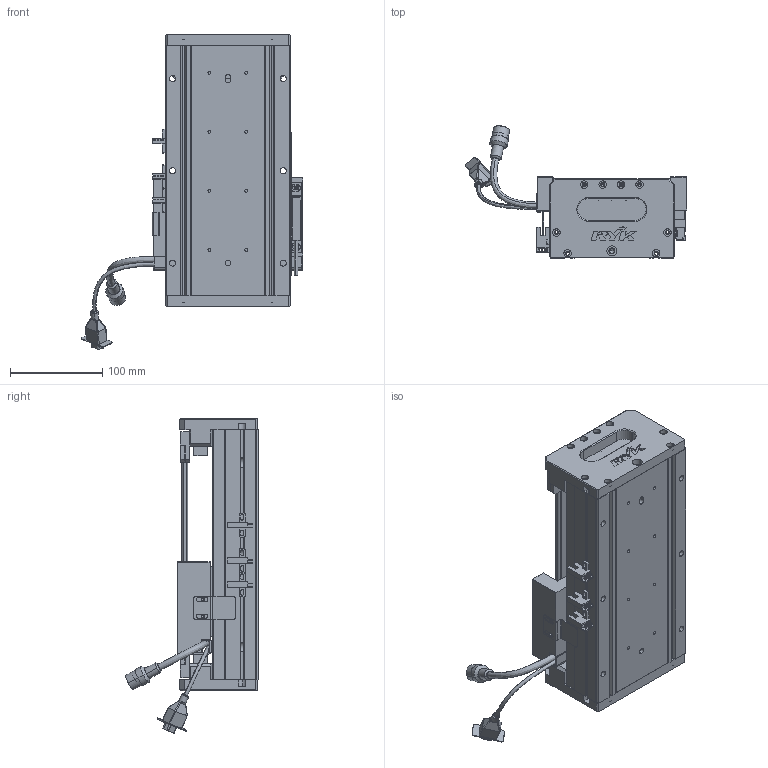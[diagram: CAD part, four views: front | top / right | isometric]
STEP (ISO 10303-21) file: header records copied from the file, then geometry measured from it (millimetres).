
FILE_DESCRIPTION (( 'STEP AP203' ), '1' );
FILE_NAME ('Z1-RY140D-1-L500-B-K.SLDASM_0100.step', '2021-05-17T07:30:10', ( '盈信电脑' ), ( '东莞市道滘镇水果街19号' ), 'SwSTEP 2.0', 'SolidWorks 2016', '' );
FILE_SCHEMA (( 'CONFIG_CONTROL_DESIGN' ));
Length unit declared in the file: millimetre
Products named in the file (36): Z1-RY140-L500直线电机模组底座_0100; Z-140詩湍傷裔啣; HOLDER0; 080黍杅芛假蚾釱21遴; Z-RY140感应器672光电感应片; SCREW-M1.7; HARNESS-Part-2; LABEL; SCALE-Part-2; SCALE-Part-1; 覜茼ん672; 榋妏寠巭燃_暯_M2_2; 140蚥薯蝶輸; SCREW-M1.6; SEAL; Z1-RY140-L500詩湍100mm遵_0100; SCREW-M1.6-2; SCREW-M1.6-1; SCREW-M1.7-1; PSLH080_PSLF2; 140雄赽晤鎢ん堤盄; HARNESS-Part-1; Z1-RY140圉猾敕臏賑輸(21遴); LABEL-Part-1; Z-RY140詩湍奻揤裔; SCREW-M1.6-3; SCALE; HARNESS; 140-Z-臏賑輸盄裔(21遴); PBU_SHEET; Z1-RY140D-1-L500-B-K.SLDASM_0100; SEAL-Part-1; Z-RY140詩湍狟揤裔; COVER; SHIELDPLATE; COVER-Part-1
Assembly tree (41 placements, depth 4):
  Z1-RY140D-1-L500-B-K.SLDASM_0100
    Z1-RY140-L500直线电机模组底座_0100
    Z-RY140感应器672光电感应片
    Z1-RY140圉猾敕臏賑輸(21遴)
    覜茼ん672  x3
    Z1-RY140-L500詩湍100mm遵_0100
    PSLH080_PSLF2
      SCALE
        SCALE-Part-1
        SCALE-Part-2
      HARNESS
        HARNESS-Part-1
        HARNESS-Part-2
      LABEL
        LABEL-Part-1
      COVER
        COVER-Part-1
      SEAL
        SEAL-Part-1
      榋妏寠巭燃_暯_M2_2
      SHIELDPLATE
      SCREW-M1.7
      SCREW-M1.7-1
      PBU_SHEET
      SCREW-M1.6
      SCREW-M1.6-1
      SCREW-M1.6-2
      SCREW-M1.6-3
      HOLDER0
    080黍杅芛假蚾釱21遴
    140-Z-臏賑輸盄裔(21遴)
    Z-140詩湍傷裔啣  x2
    Z-RY140詩湍狟揤裔  x2
    Z-RY140詩湍奻揤裔  x2
    140蚥薯蝶輸  x2
    140雄赽晤鎢ん堤盄
Bounding box: 239.84 x 143.88 x 340.88 mm (x, y, z)
Volume: 1563742 mm3; surface area: 429608.7 mm2
Topology: 36 solids, 36 shells, 2356 faces, 6074 edges, 3853 vertices
Faces by surface type: plane 1036, cylinder 980, cone 218, torus 69, bspline 53
Entity records: 64730 total; most frequent: CARTESIAN_POINT 14899, DIRECTION 9738, ORIENTED_EDGE 9404, EDGE_CURVE 4702, AXIS2_PLACEMENT_3D 3524, VERTEX_POINT 3021, LINE 2690, VECTOR 2690
